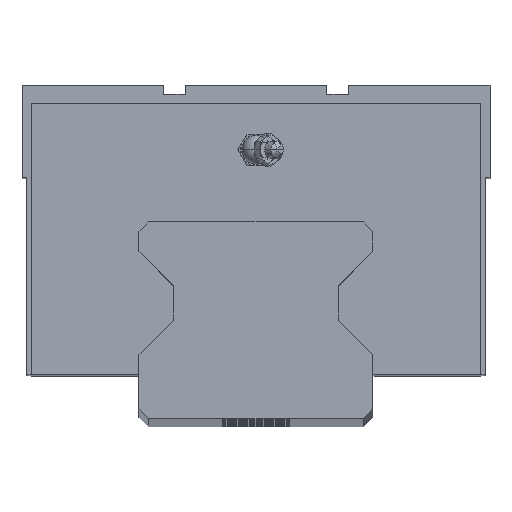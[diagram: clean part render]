
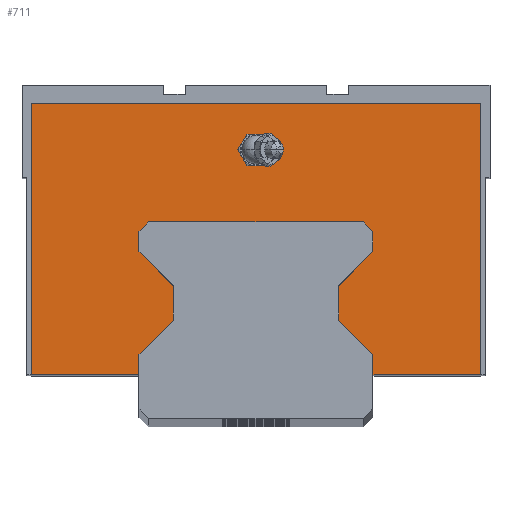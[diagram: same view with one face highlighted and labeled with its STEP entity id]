
A CAD part, top view. The second image highlights one B-rep face of the part: STEP entity #711.
In plain terms, the highlighted planar face has unit normal (0, 0, 1).
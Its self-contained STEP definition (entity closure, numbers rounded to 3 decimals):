
#711=ADVANCED_FACE('',(#1557,#1558),#1559,.T.);
#1557=FACE_BOUND('',#2525,.T.);
#1558=FACE_OUTER_BOUND('',#2526,.T.);
#1559=PLANE('',#2527);
#2525=EDGE_LOOP('',(#4520,#4521));
#2526=EDGE_LOOP('',(#4522,#4523,#4524,#4525,#4526,#4527,#4528,#4529,#4530,#4531,#4532,#4533,#4534,#4535,#4536,#4537,#4538,#4539));
#2527=AXIS2_PLACEMENT_3D('',#4540,#4541,#4542);
#4520=ORIENTED_EDGE('',*,*,#6169,.T.);
#4521=ORIENTED_EDGE('',*,*,#6204,.T.);
#4522=ORIENTED_EDGE('',*,*,#6304,.F.);
#4523=ORIENTED_EDGE('',*,*,#5887,.F.);
#4524=ORIENTED_EDGE('',*,*,#6305,.F.);
#4525=ORIENTED_EDGE('',*,*,#6306,.F.);
#4526=ORIENTED_EDGE('',*,*,#6072,.F.);
#4527=ORIENTED_EDGE('',*,*,#6307,.F.);
#4528=ORIENTED_EDGE('',*,*,#5987,.F.);
#4529=ORIENTED_EDGE('',*,*,#6028,.F.);
#4530=ORIENTED_EDGE('',*,*,#6308,.F.);
#4531=ORIENTED_EDGE('',*,*,#5824,.F.);
#4532=ORIENTED_EDGE('',*,*,#5526,.F.);
#4533=ORIENTED_EDGE('',*,*,#5959,.F.);
#4534=ORIENTED_EDGE('',*,*,#5903,.F.);
#4535=ORIENTED_EDGE('',*,*,#6246,.F.);
#4536=ORIENTED_EDGE('',*,*,#6309,.F.);
#4537=ORIENTED_EDGE('',*,*,#6310,.F.);
#4538=ORIENTED_EDGE('',*,*,#5815,.F.);
#4539=ORIENTED_EDGE('',*,*,#6311,.F.);
#4540=CARTESIAN_POINT('',(0.,50.55,-69.0));
#4541=DIRECTION('',(0.,0.,1.0));
#4542=DIRECTION('',(1.0,0.0,0.));
#5526=EDGE_CURVE('',#6570,#6573,#6574,.T.);
#5815=EDGE_CURVE('',#7074,#7077,#7078,.T.);
#5824=EDGE_CURVE('',#6573,#7092,#7093,.T.);
#5887=EDGE_CURVE('',#7189,#7192,#7193,.T.);
#5903=EDGE_CURVE('',#7215,#7218,#7219,.T.);
#5959=EDGE_CURVE('',#7218,#6570,#7303,.T.);
#5987=EDGE_CURVE('',#7340,#7343,#7344,.T.);
#6028=EDGE_CURVE('',#7406,#7340,#7409,.T.);
#6072=EDGE_CURVE('',#7469,#7471,#7472,.T.);
#6169=EDGE_CURVE('',#7594,#7598,#7600,.T.);
#6204=EDGE_CURVE('',#7598,#7594,#7648,.T.);
#6246=EDGE_CURVE('',#7698,#7215,#7701,.T.);
#6304=EDGE_CURVE('',#7192,#7770,#7771,.T.);
#6305=EDGE_CURVE('',#7772,#7189,#7773,.T.);
#6306=EDGE_CURVE('',#7471,#7772,#7774,.T.);
#6307=EDGE_CURVE('',#7343,#7469,#7775,.T.);
#6308=EDGE_CURVE('',#7092,#7406,#7776,.T.);
#6309=EDGE_CURVE('',#7777,#7698,#7778,.T.);
#6310=EDGE_CURVE('',#7077,#7777,#7779,.T.);
#6311=EDGE_CURVE('',#7770,#7074,#7780,.T.);
#6570=VERTEX_POINT('',#8113);
#6573=VERTEX_POINT('',#8117);
#6574=LINE('',#8118,#8119);
#7074=VERTEX_POINT('',#8901);
#7077=VERTEX_POINT('',#8905);
#7078=LINE('',#8906,#8907);
#7092=VERTEX_POINT('',#8923);
#7093=LINE('',#8924,#8925);
#7189=VERTEX_POINT('',#9051);
#7192=VERTEX_POINT('',#9055);
#7193=LINE('',#9056,#9057);
#7215=VERTEX_POINT('',#9104);
#7218=VERTEX_POINT('',#9108);
#7219=LINE('',#9109,#9110);
#7303=LINE('',#9231,#9232);
#7340=VERTEX_POINT('',#9301);
#7343=VERTEX_POINT('',#9305);
#7344=LINE('',#9306,#9307);
#7406=VERTEX_POINT('',#9451);
#7409=LINE('',#9455,#9456);
#7469=VERTEX_POINT('',#9529);
#7471=VERTEX_POINT('',#9532);
#7472=LINE('',#9533,#9534);
#7594=VERTEX_POINT('',#9754);
#7598=VERTEX_POINT('',#9759);
#7600=CIRCLE('',#9762,3.87);
#7648=CIRCLE('',#9853,3.87);
#7698=VERTEX_POINT('',#9914);
#7701=LINE('',#9918,#9919);
#7770=VERTEX_POINT('',#10050);
#7771=LINE('',#10051,#10052);
#7772=VERTEX_POINT('',#10053);
#7773=LINE('',#10054,#10055);
#7774=LINE('',#10056,#10057);
#7775=LINE('',#10058,#10059);
#7776=LINE('',#10060,#10061);
#7777=VERTEX_POINT('',#10062);
#7778=LINE('',#10063,#10064);
#7779=LINE('',#10065,#10066);
#7780=LINE('',#10067,#10068);
#8113=CARTESIAN_POINT('',(-31.5,45.05,-69.0));
#8117=CARTESIAN_POINT('',(-22.25,35.8,-69.0));
#8118=CARTESIAN_POINT('',(-31.5,45.05,-69.0));
#8119=VECTOR('',#10430,1000.0);
#8901=CARTESIAN_POINT('',(22.25,35.8,-69.0));
#8905=CARTESIAN_POINT('',(31.5,45.05,-69.0));
#8906=CARTESIAN_POINT('',(22.25,35.8,-69.0));
#8907=VECTOR('',#10876,1000.0);
#8923=CARTESIAN_POINT('',(-22.25,26.55,-69.0));
#8924=CARTESIAN_POINT('',(-22.25,35.8,-69.0));
#8925=VECTOR('',#10891,1000.0);
#9051=CARTESIAN_POINT('',(31.5,12.0,-69.0));
#9055=CARTESIAN_POINT('',(31.5,17.3,-69.0));
#9056=CARTESIAN_POINT('',(31.5,12.0,-69.0));
#9057=VECTOR('',#10971,1000.0);
#9104=CARTESIAN_POINT('',(-28.85,53.0,-69.0));
#9108=CARTESIAN_POINT('',(-31.5,50.35,-69.0));
#9109=CARTESIAN_POINT('',(-28.85,53.0,-69.0));
#9110=VECTOR('',#10990,1000.0);
#9231=CARTESIAN_POINT('',(-31.5,50.35,-69.0));
#9232=VECTOR('',#11062,1000.0);
#9301=CARTESIAN_POINT('',(-31.5,12.0,-69.0));
#9305=CARTESIAN_POINT('',(-60.5,12.0,-69.0));
#9306=CARTESIAN_POINT('',(-60.5,12.0,-69.0));
#9307=VECTOR('',#11092,1000.0);
#9451=CARTESIAN_POINT('',(-31.5,17.3,-69.0));
#9455=CARTESIAN_POINT('',(-31.5,17.3,-69.0));
#9456=VECTOR('',#11134,1000.0);
#9529=CARTESIAN_POINT('',(-60.5,85.0,-69.0));
#9532=CARTESIAN_POINT('',(60.5,85.0,-69.0));
#9533=CARTESIAN_POINT('',(-60.5,85.0,-69.0));
#9534=VECTOR('',#11203,1000.0);
#9754=CARTESIAN_POINT('',(3.87,72.5,-69.0));
#9759=CARTESIAN_POINT('',(-3.87,72.5,-69.0));
#9762=AXIS2_PLACEMENT_3D('',#11312,#11313,#11314);
#9853=AXIS2_PLACEMENT_3D('',#11351,#11352,#11353);
#9914=CARTESIAN_POINT('',(28.85,53.0,-69.0));
#9918=CARTESIAN_POINT('',(28.85,53.0,-69.0));
#9919=VECTOR('',#11402,1000.0);
#10050=CARTESIAN_POINT('',(22.25,26.55,-69.0));
#10051=CARTESIAN_POINT('',(31.5,17.3,-69.0));
#10052=VECTOR('',#11463,1000.0);
#10053=CARTESIAN_POINT('',(60.5,12.0,-69.0));
#10054=CARTESIAN_POINT('',(60.5,12.0,-69.0));
#10055=VECTOR('',#11464,1000.0);
#10056=CARTESIAN_POINT('',(60.5,85.0,-69.0));
#10057=VECTOR('',#11465,1000.0);
#10058=CARTESIAN_POINT('',(-60.5,12.0,-69.0));
#10059=VECTOR('',#11466,1000.0);
#10060=CARTESIAN_POINT('',(-22.25,26.55,-69.0));
#10061=VECTOR('',#11467,1000.0);
#10062=CARTESIAN_POINT('',(31.5,50.35,-69.0));
#10063=CARTESIAN_POINT('',(31.5,50.35,-69.0));
#10064=VECTOR('',#11468,1000.0);
#10065=CARTESIAN_POINT('',(31.5,45.05,-69.0));
#10066=VECTOR('',#11469,1000.0);
#10067=CARTESIAN_POINT('',(22.25,26.55,-69.0));
#10068=VECTOR('',#11470,1000.0);
#10430=DIRECTION('',(0.707,-0.707,0.0));
#10876=DIRECTION('',(0.707,0.707,0.0));
#10891=DIRECTION('',(0.0,-1.0,0.0));
#10971=DIRECTION('',(0.0,1.0,0.0));
#10990=DIRECTION('',(-0.707,-0.707,0.0));
#11062=DIRECTION('',(0.0,-1.0,0.0));
#11092=DIRECTION('',(-1.0,-0.0,-0.0));
#11134=DIRECTION('',(0.0,-1.0,0.0));
#11203=DIRECTION('',(1.0,0.0,0.0));
#11312=CARTESIAN_POINT('',(0.0,72.5,-69.0));
#11313=DIRECTION('',(0.,0.,-1.0));
#11314=DIRECTION('',(1.0,0.,0.));
#11351=CARTESIAN_POINT('',(0.0,72.5,-69.0));
#11352=DIRECTION('',(0.,0.,-1.0));
#11353=DIRECTION('',(1.0,0.,0.));
#11402=DIRECTION('',(-1.0,0.0,0.0));
#11463=DIRECTION('',(-0.707,0.707,0.0));
#11464=DIRECTION('',(-1.0,0.0,0.0));
#11465=DIRECTION('',(0.0,-1.0,0.0));
#11466=DIRECTION('',(0.0,1.0,0.0));
#11467=DIRECTION('',(-0.707,-0.707,0.0));
#11468=DIRECTION('',(-0.707,0.707,0.0));
#11469=DIRECTION('',(0.0,1.0,0.0));
#11470=DIRECTION('',(0.0,1.0,0.0));
